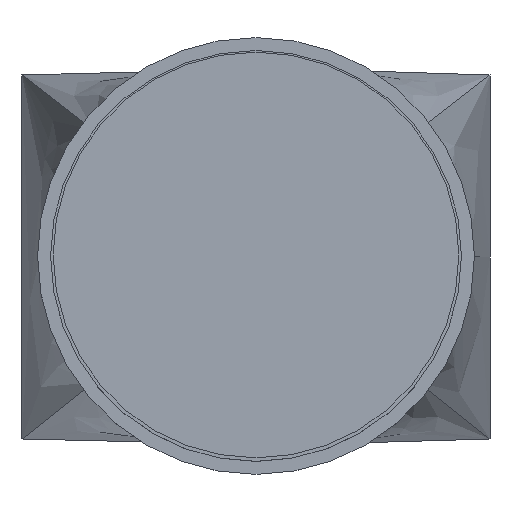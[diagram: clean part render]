
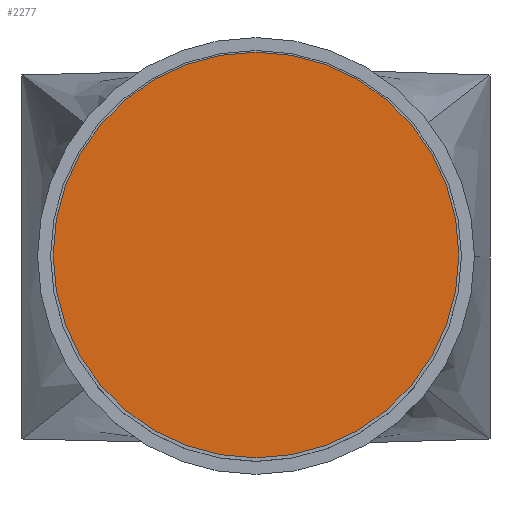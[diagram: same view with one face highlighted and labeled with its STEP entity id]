
A CAD part, top view. The second image highlights one B-rep face of the part: STEP entity #2277.
In plain terms, the highlighted planar face has unit normal (0, 0, 1).
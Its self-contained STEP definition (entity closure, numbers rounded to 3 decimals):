
#2193 = EDGE_CURVE('',#2194,#2194,#2196,.T.);
#2194 = VERTEX_POINT('',#2195);
#2195 = CARTESIAN_POINT('',(390.,0.,1100.));
#2196 = SURFACE_CURVE('',#2197,(#2202,#2214),.PCURVE_S1.);
#2197 = CIRCLE('',#2198,390.);
#2198 = AXIS2_PLACEMENT_3D('',#2199,#2200,#2201);
#2199 = CARTESIAN_POINT('',(0.,0.,1100.));
#2200 = DIRECTION('',(0.,0.,1.));
#2201 = DIRECTION('',(1.,0.,-0.));
#2202 = PCURVE('',#2203,#2208);
#2203 = CONICAL_SURFACE('',#2204,98.,0.44);
#2204 = AXIS2_PLACEMENT_3D('',#2205,#2206,#2207);
#2205 = CARTESIAN_POINT('',(0.,0.,480.));
#2206 = DIRECTION('',(0.,0.,1.));
#2207 = DIRECTION('',(1.,0.,-0.));
#2208 = DEFINITIONAL_REPRESENTATION('',(#2209),#2213);
#2209 = LINE('',#2210,#2211);
#2210 = CARTESIAN_POINT('',(0.,620.));
#2211 = VECTOR('',#2212,1.);
#2212 = DIRECTION('',(1.,0.));
#2213 = ( GEOMETRIC_REPRESENTATION_CONTEXT(2) 
PARAMETRIC_REPRESENTATION_CONTEXT() REPRESENTATION_CONTEXT('2D SPACE',''
  ) );
#2214 = PCURVE('',#2215,#2220);
#2215 = PLANE('',#2216);
#2216 = AXIS2_PLACEMENT_3D('',#2217,#2218,#2219);
#2217 = CARTESIAN_POINT('',(0.,0.,1100.));
#2218 = DIRECTION('',(0.,0.,1.));
#2219 = DIRECTION('',(1.,0.,-0.));
#2220 = DEFINITIONAL_REPRESENTATION('',(#2221),#2225);
#2221 = CIRCLE('',#2222,390.);
#2222 = AXIS2_PLACEMENT_2D('',#2223,#2224);
#2223 = CARTESIAN_POINT('',(0.,0.));
#2224 = DIRECTION('',(1.,0.));
#2225 = ( GEOMETRIC_REPRESENTATION_CONTEXT(2) 
PARAMETRIC_REPRESENTATION_CONTEXT() REPRESENTATION_CONTEXT('2D SPACE',''
  ) );
#2277 = ADVANCED_FACE('',(#2278),#2215,.T.);
#2278 = FACE_BOUND('',#2279,.T.);
#2279 = EDGE_LOOP('',(#2280));
#2280 = ORIENTED_EDGE('',*,*,#2193,.T.);
